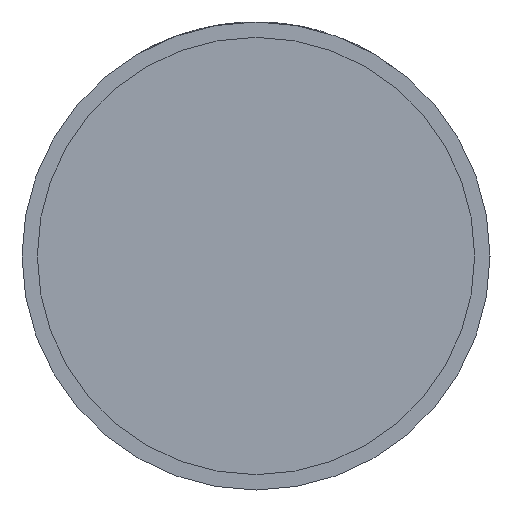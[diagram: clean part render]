
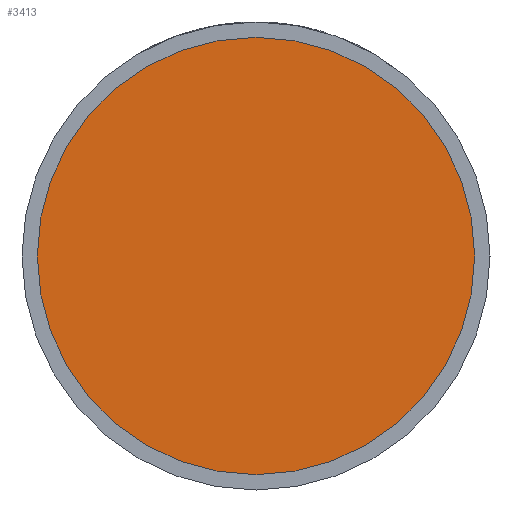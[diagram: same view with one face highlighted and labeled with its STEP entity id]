
A CAD part, front view. The second image highlights one B-rep face of the part: STEP entity #3413.
In plain terms, the highlighted planar face has unit normal (0, -1, 0).
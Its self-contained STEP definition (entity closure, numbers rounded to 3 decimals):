
#165 = EDGE_CURVE ( 'NONE', #4132, #987, #2460, .T. ) ;
#189 = DIRECTION ( 'NONE',  ( 0., -1., 0. ) ) ;
#250 = AXIS2_PLACEMENT_3D ( 'NONE', #814, #2134, #3453 ) ;
#327 = ORIENTED_EDGE ( 'NONE', *, *, #4112, .T. ) ;
#548 = AXIS2_PLACEMENT_3D ( 'NONE', #4123, #189, #3476 ) ;
#814 = CARTESIAN_POINT ( 'NONE',  ( 0., -17.5, 0. ) ) ;
#891 = CARTESIAN_POINT ( 'NONE',  ( -28.5, -17.5, 0. ) ) ;
#893 = AXIS2_PLACEMENT_3D ( 'NONE', #2901, #3546, #1539 ) ;
#987 = VERTEX_POINT ( 'NONE', #1743 ) ;
#1539 = DIRECTION ( 'NONE',  ( 1., 0., 0. ) ) ;
#1743 = CARTESIAN_POINT ( 'NONE',  ( 28.5, -17.5, 0. ) ) ;
#2065 = CIRCLE ( 'NONE', #893, 28.5 ) ;
#2134 = DIRECTION ( 'NONE',  ( 0., -1., 0. ) ) ;
#2460 = CIRCLE ( 'NONE', #250, 28.5 ) ;
#2726 = ORIENTED_EDGE ( 'NONE', *, *, #165, .T. ) ;
#2806 = FACE_OUTER_BOUND ( 'NONE', #3155, .T. ) ;
#2901 = CARTESIAN_POINT ( 'NONE',  ( 0., -17.5, 0. ) ) ;
#3155 = EDGE_LOOP ( 'NONE', ( #327, #2726 ) ) ;
#3413 = ADVANCED_FACE ( 'NONE', ( #2806 ), #3840, .T. ) ;
#3453 = DIRECTION ( 'NONE',  ( 1., 0., 0. ) ) ;
#3476 = DIRECTION ( 'NONE',  ( 1., 0., 0. ) ) ;
#3546 = DIRECTION ( 'NONE',  ( 0., -1., 0. ) ) ;
#3840 = PLANE ( 'NONE',  #548 ) ;
#4112 = EDGE_CURVE ( 'NONE', #987, #4132, #2065, .T. ) ;
#4123 = CARTESIAN_POINT ( 'NONE',  ( 28.5, -17.5, 0. ) ) ;
#4132 = VERTEX_POINT ( 'NONE', #891 ) ;
